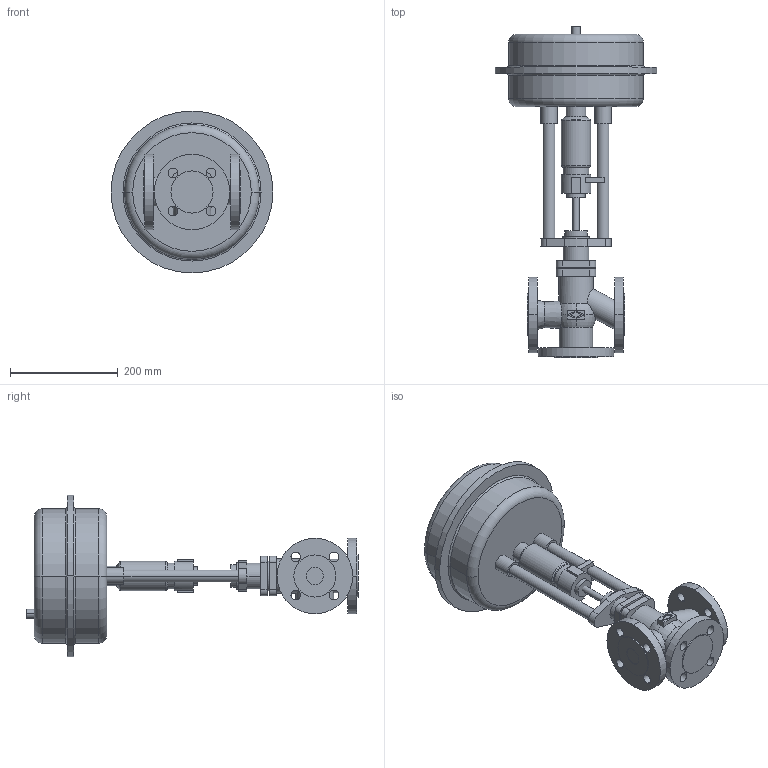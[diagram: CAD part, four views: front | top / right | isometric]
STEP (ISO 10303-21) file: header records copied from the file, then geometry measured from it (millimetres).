
FILE_DESCRIPTION(('OneSpaceDesigner STEP Export'),'2;1');
FILE_NAME('c000000683.stp','2006-09-19T10:14:59',(''),(''),'OneSpace Designer STEP processor for AP214 (Solid Model)','OneSpace Designer 13.20A 18-Aug-2005 (C) CoCreate Software GmbH','');
FILE_SCHEMA(('AUTOMOTIVE_DESIGN { 1 0 10303 214 1 1 1 1 }'));
Length unit declared in the file: millimetre
Products named in the file (2): 1; 2
Bounding box: 300 x 615.6 x 300 mm (x, y, z)
Volume: 9043866.8 mm3; surface area: 500719.2 mm2
Topology: 2 solids, 2 shells, 203 faces, 490 edges, 319 vertices
Faces by surface type: cylinder 96, plane 77, torus 22, cone 8
Entity records: 5583 total; most frequent: CARTESIAN_POINT 1208, ORIENTED_EDGE 980, DIRECTION 796, EDGE_CURVE 490, VERTEX_POINT 319, AXIS2_PLACEMENT_3D 291, EDGE_LOOP 255, VECTOR 214
